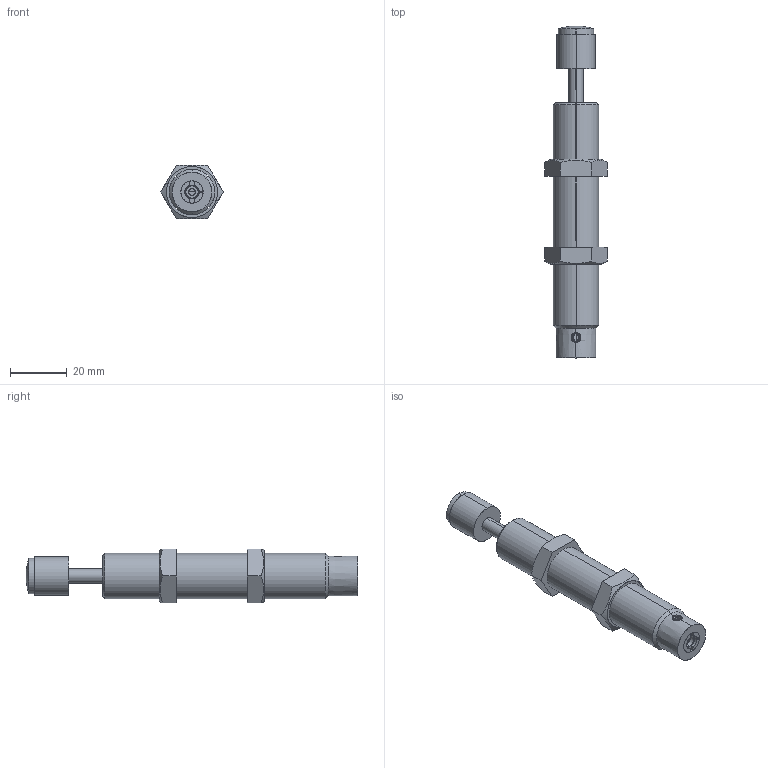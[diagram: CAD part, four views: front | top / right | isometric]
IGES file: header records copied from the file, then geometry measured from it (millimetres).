
Start section: SolidWorks IGES file using analytic representation for surfaces
Bounding box: 21.94 x 117 x 19 mm (x, y, z)
Surface area: 7863.6 mm2 (no closed solid volume)
Topology: 0 solids, 0 shells, 83 faces, 1432 edges, 1431 vertices
Faces by surface type: bspline 43, revolution 40
